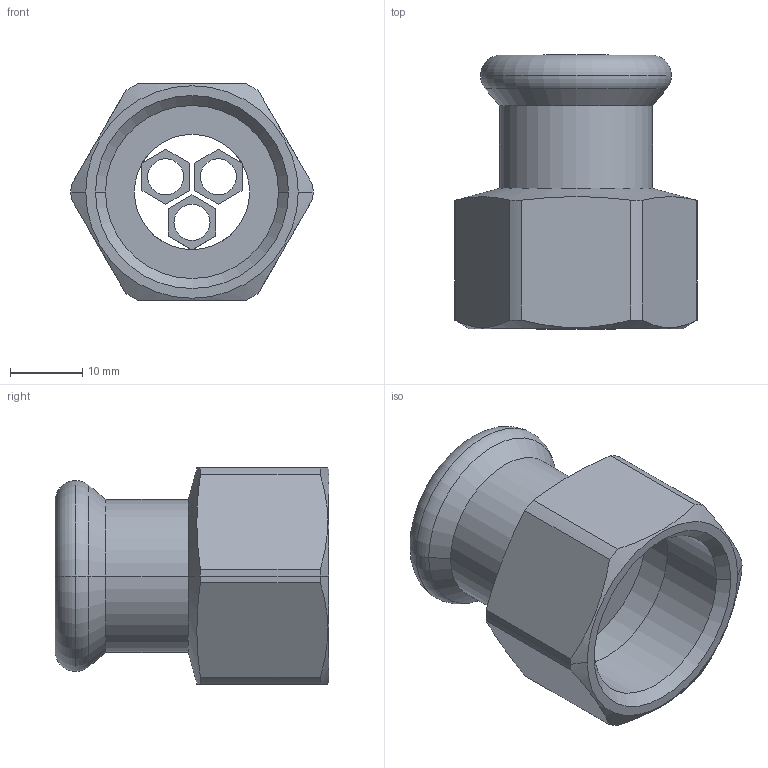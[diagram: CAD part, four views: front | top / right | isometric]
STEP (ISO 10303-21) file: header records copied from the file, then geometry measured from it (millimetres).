
FILE_DESCRIPTION(('OneSpaceDesigner STEP Export'),'2;1');
FILE_NAME('R2702 18xRp3-4.stp','2010-06-08T13:57:06',(''),(''),'OneSpace Designer STEP processor for AP214 (Solid Model)','OneSpace Modeling 15.00A 14-Mar-2007 (C) CoCreate Software GmbH','');
FILE_SCHEMA(('AUTOMOTIVE_DESIGN { 1 0 10303 214 1 1 1 1 }'));
Length unit declared in the file: millimetre
Products named in the file (2): R2702_18xRp3-4
Assembly tree (1 placements, depth 2):
  R2702_18xRp3-4
    R2702_18xRp3-4
Bounding box: 33.61 x 38 x 30 mm (x, y, z)
Volume: 8680.7 mm3; surface area: 7376.1 mm2
Topology: 1 solids, 1 shells, 81 faces, 207 edges, 130 vertices
Faces by surface type: plane 34, cylinder 29, cone 14, torus 4
Entity records: 2876 total; most frequent: CARTESIAN_POINT 1086, ORIENTED_EDGE 414, DIRECTION 297, EDGE_CURVE 207, VERTEX_POINT 130, VECTOR 115, LINE 115, AXIS2_PLACEMENT_3D 91
